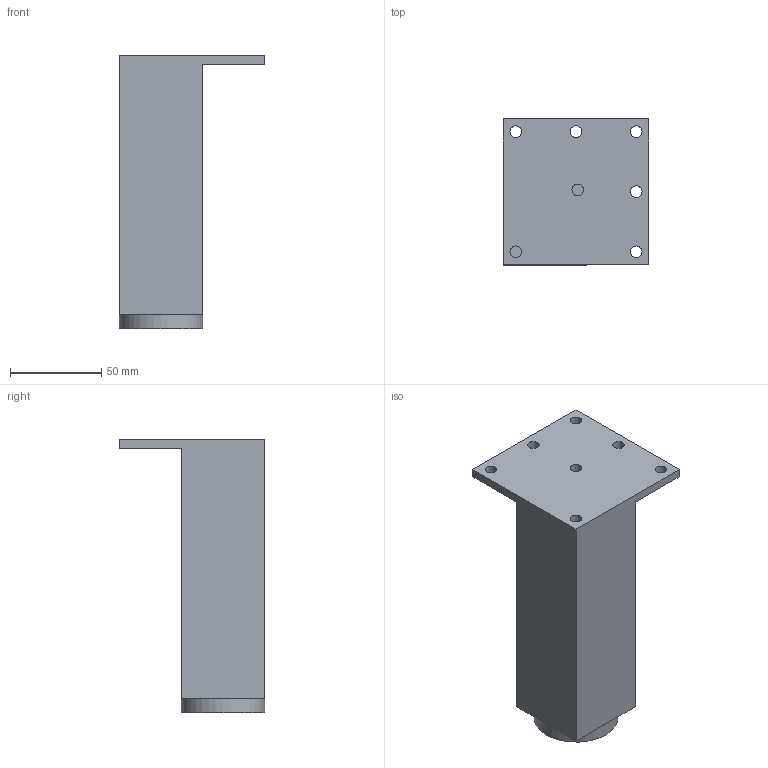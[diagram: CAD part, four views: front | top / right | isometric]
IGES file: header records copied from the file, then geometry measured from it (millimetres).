
Start section: Data from Parasolid IGES Translator 20.0.26, Copyright(c) 2006 Siemens P LM Software. All Rights Reserved.
Global section: file name: 9119545.igs; native system: By Siemens PLM Incorporated; preprocessor: XPlus GENERIC/IGES 20.0.26; author: Noname; organization: Noname; date: 20210125.170524; units: millimetre
Bounding box: 80 x 80 x 150 mm (x, y, z)
Surface area: 41166.6 mm2 (no closed solid volume)
Topology: 0 solids, 0 shells, 23 faces, 104 edges, 93 vertices
Faces by surface type: extrusion 15, revolution 8
